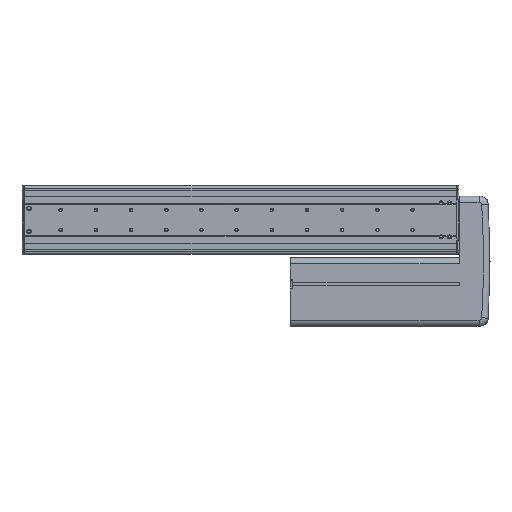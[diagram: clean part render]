
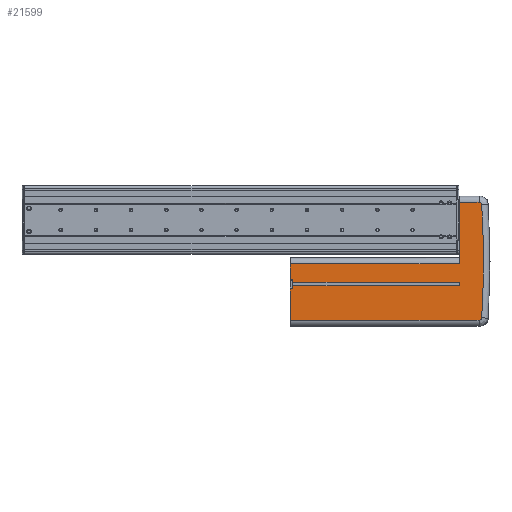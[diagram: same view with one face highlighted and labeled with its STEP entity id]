
A CAD part, front view. The second image highlights one B-rep face of the part: STEP entity #21599.
In plain terms, the highlighted planar face has unit normal (0, -1, 0).
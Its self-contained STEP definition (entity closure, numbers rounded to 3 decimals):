
#982=DIRECTION('',(-1.,0.,0.));
#983=VECTOR('',#982,189.);
#984=CARTESIAN_POINT('',(494.,5.,-75.1));
#985=LINE('',#984,#983);
#994=DIRECTION('',(0.,0.,1.));
#995=VECTOR('',#994,4.2);
#996=CARTESIAN_POINT('',(494.,5.,-75.1));
#997=LINE('',#996,#995);
#998=DIRECTION('',(0.,0.,-1.));
#999=VECTOR('',#998,3.4);
#1000=CARTESIAN_POINT('',(305.,5.,-67.5));
#1001=LINE('',#1000,#999);
#1002=DIRECTION('',(0.,0.,-1.));
#1003=VECTOR('',#1002,17.5);
#1004=CARTESIAN_POINT('',(302.,5.,-50.));
#1005=LINE('',#1004,#1003);
#1006=DIRECTION('',(1.,0.,0.));
#1007=VECTOR('',#1006,192.);
#1008=CARTESIAN_POINT('',(302.,5.,-50.));
#1009=LINE('',#1008,#1007);
#1010=DIRECTION('',(0.,0.,1.));
#1011=VECTOR('',#1010,70.);
#1012=CARTESIAN_POINT('',(494.,5.,-50.));
#1013=LINE('',#1012,#1011);
#1014=CARTESIAN_POINT('',(516.587,5.,16.999));
#1015=DIRECTION('',(0.,1.,0.));
#1016=DIRECTION('',(0.,0.,1.));
#1017=AXIS2_PLACEMENT_3D('',#1014,#1015,#1016);
#1019=CARTESIAN_POINT('',(-471.,5.,-47.));
#1020=DIRECTION('',(0.,1.,0.));
#1021=DIRECTION('',(0.998,0.,0.065));
#1022=AXIS2_PLACEMENT_3D('',#1019,#1020,#1021);
#1024=CARTESIAN_POINT('',(516.587,5.,-110.999));
#1025=DIRECTION('',(0.,1.,0.));
#1026=DIRECTION('',(0.998,0.,-0.065));
#1027=AXIS2_PLACEMENT_3D('',#1024,#1025,#1026);
#1029=DIRECTION('',(0.,0.,-1.));
#1030=VECTOR('',#1029,35.5);
#1031=CARTESIAN_POINT('',(302.,5.,-78.5));
#1032=LINE('',#1031,#1030);
#1033=DIRECTION('',(0.,0.,-1.));
#1034=VECTOR('',#1033,3.4);
#1035=CARTESIAN_POINT('',(305.,5.,-75.1));
#1036=LINE('',#1035,#1034);
#1053=DIRECTION('',(1.,0.,0.));
#1054=VECTOR('',#1053,189.);
#1055=CARTESIAN_POINT('',(305.,5.,-70.9));
#1056=LINE('',#1055,#1054);
#13760=DIRECTION('',(1.,0.,0.));
#13761=VECTOR('',#13760,192.);
#13762=CARTESIAN_POINT('',(302.,5.,-114.));
#13763=LINE('',#13762,#13761);
#13764=DIRECTION('',(1.,0.,0.));
#13765=VECTOR('',#13764,22.587);
#13766=CARTESIAN_POINT('',(494.,5.,-114.));
#13767=LINE('',#13766,#13765);
#14182=DIRECTION('',(-1.,0.,0.));
#14183=VECTOR('',#14182,22.587);
#14184=CARTESIAN_POINT('',(516.587,5.,20.));
#14185=LINE('',#14184,#14183);
#14847=DIRECTION('',(1.,0.,0.));
#14848=VECTOR('',#14847,3.);
#14849=CARTESIAN_POINT('',(302.,5.,-67.5));
#14850=LINE('',#14849,#14848);
#14871=DIRECTION('',(-1.,0.,0.));
#14872=VECTOR('',#14871,3.);
#14873=CARTESIAN_POINT('',(305.,5.,-78.5));
#14874=LINE('',#14873,#14872);
#16123=CARTESIAN_POINT('',(302.,5.,-114.));
#16124=VERTEX_POINT('',#16123);
#16125=CARTESIAN_POINT('',(302.,5.,-78.5));
#16126=VERTEX_POINT('',#16125);
#16135=CARTESIAN_POINT('',(302.,5.,-67.5));
#16136=VERTEX_POINT('',#16135);
#16137=CARTESIAN_POINT('',(302.,5.,-50.));
#16138=VERTEX_POINT('',#16137);
#16284=CARTESIAN_POINT('',(494.,5.,20.));
#16286=VERTEX_POINT('',#16284);
#16299=CARTESIAN_POINT('',(516.587,5.,
-114.));
#16300=VERTEX_POINT('',#16299);
#16301=CARTESIAN_POINT('',(519.582,5.,
-111.194));
#16302=VERTEX_POINT('',#16301);
#16303=CARTESIAN_POINT('',(519.582,5.,17.194));
#16304=VERTEX_POINT('',#16303);
#16305=CARTESIAN_POINT('',(516.587,5.,20.));
#16306=VERTEX_POINT('',#16305);
#16352=CARTESIAN_POINT('',(305.,5.,-75.1));
#16354=VERTEX_POINT('',#16352);
#16366=CARTESIAN_POINT('',(305.,5.,-70.9));
#16367=VERTEX_POINT('',#16366);
#19760=CARTESIAN_POINT('',(305.,5.,-67.5));
#19762=VERTEX_POINT('',#19760);
#19770=CARTESIAN_POINT('',(305.,5.,-78.5));
#19771=VERTEX_POINT('',#19770);
#19934=CARTESIAN_POINT('',(494.,5.,-75.1));
#19935=VERTEX_POINT('',#19934);
#19936=CARTESIAN_POINT('',(494.,5.,-70.9));
#19937=VERTEX_POINT('',#19936);
#19938=CARTESIAN_POINT('',(494.,5.,-50.));
#19939=VERTEX_POINT('',#19938);
#19946=CARTESIAN_POINT('',(494.,5.,-114.));
#19947=VERTEX_POINT('',#19946);
#21565=CARTESIAN_POINT('',(399.5,5.,-94.55));
#21566=DIRECTION('',(0.,1.,0.));
#21567=DIRECTION('',(0.,0.,-1.));
#21568=AXIS2_PLACEMENT_3D('',#21565,#21566,#21567);
#21569=PLANE('',#21568);
#21570=ORIENTED_EDGE('',*,*,#21237,.T.);
#21572=ORIENTED_EDGE('',*,*,#21571,.F.);
#21573=ORIENTED_EDGE('',*,*,#21098,.F.);
#21575=ORIENTED_EDGE('',*,*,#21574,.F.);
#21576=ORIENTED_EDGE('',*,*,#20851,.F.);
#21578=ORIENTED_EDGE('',*,*,#21577,.T.);
#21579=ORIENTED_EDGE('',*,*,#21456,.T.);
#21581=ORIENTED_EDGE('',*,*,#21580,.F.);
#21583=ORIENTED_EDGE('',*,*,#21582,.T.);
#21585=ORIENTED_EDGE('',*,*,#21584,.T.);
#21587=ORIENTED_EDGE('',*,*,#21586,.T.);
#21589=ORIENTED_EDGE('',*,*,#21588,.F.);
#21591=ORIENTED_EDGE('',*,*,#21590,.F.);
#21592=ORIENTED_EDGE('',*,*,#20863,.F.);
#21594=ORIENTED_EDGE('',*,*,#21593,.F.);
#21595=ORIENTED_EDGE('',*,*,#21114,.F.);
#21596=ORIENTED_EDGE('',*,*,#21555,.F.);
#21597=EDGE_LOOP('',(#21570,#21572,#21573,#21575,#21576,#21578,#21579,#21581,
#21583,#21585,#21587,#21589,#21591,#21592,#21594,#21595,#21596));
#21598=FACE_OUTER_BOUND('',#21597,.F.);
#21599=ADVANCED_FACE('',(#21598),#21569,.F.);
#1018=CIRCLE('',#1017,3.001);
#1023=CIRCLE('',#1022,992.66);
#1028=CIRCLE('',#1027,3.001);
#20851=EDGE_CURVE('',#16138,#16136,#1005,.T.);
#20863=EDGE_CURVE('',#16126,#16124,#1032,.T.);
#21098=EDGE_CURVE('',#19762,#16367,#1001,.T.);
#21114=EDGE_CURVE('',#16354,#19771,#1036,.T.);
#21237=EDGE_CURVE('',#19935,#19937,#997,.T.);
#21456=EDGE_CURVE('',#19939,#16286,#1013,.T.);
#21555=EDGE_CURVE('',#19935,#16354,#985,.T.);
#21571=EDGE_CURVE('',#16367,#19937,#1056,.T.);
#21574=EDGE_CURVE('',#16136,#19762,#14850,.T.);
#21577=EDGE_CURVE('',#16138,#19939,#1009,.T.);
#21580=EDGE_CURVE('',#16306,#16286,#14185,.T.);
#21582=EDGE_CURVE('',#16306,#16304,#1018,.T.);
#21584=EDGE_CURVE('',#16304,#16302,#1023,.T.);
#21586=EDGE_CURVE('',#16302,#16300,#1028,.T.);
#21588=EDGE_CURVE('',#19947,#16300,#13767,.T.);
#21590=EDGE_CURVE('',#16124,#19947,#13763,.T.);
#21593=EDGE_CURVE('',#19771,#16126,#14874,.T.);
